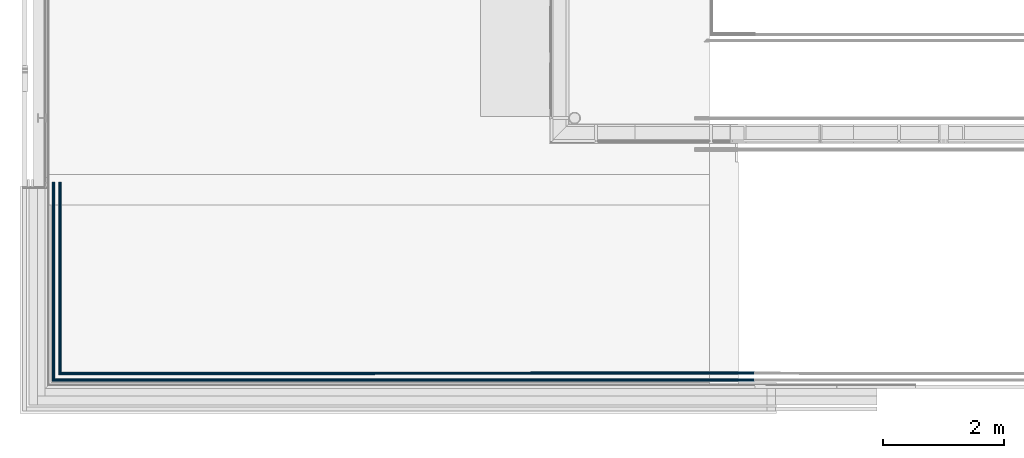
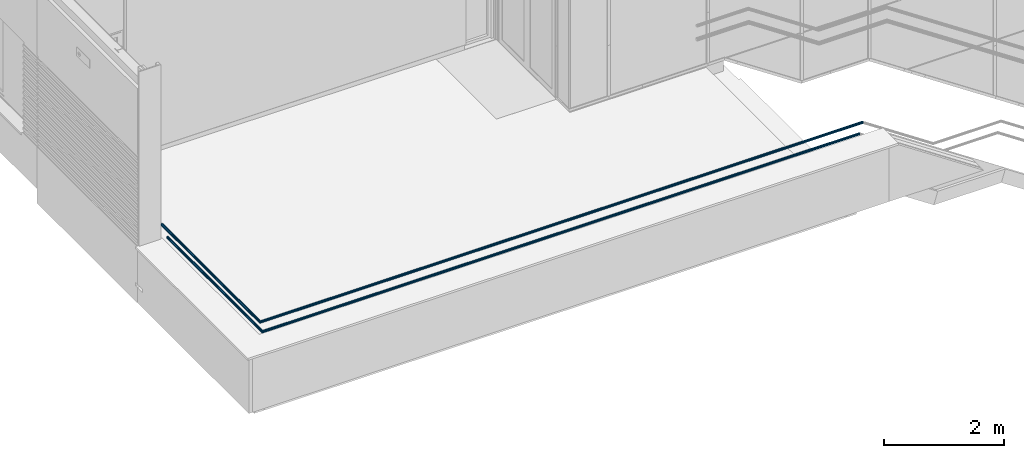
# One storey, part 12 of 137: 4 members, 1 element without a shape of its own.
"""IFC2X3 building model written with IfcOpenShell, lengths in millimetres."""

from ifc_helpers import new_model, entity, si_unit, converted_unit, derived_unit, money_unit, direction, frame, origin_with_axes, place, context, subcontext, project, spatial, faceted_brep, material, type_object, element, aggregate, save


model = new_model("IFC2X3")

# Units and contexts
model_context = context("Model", 3, precision=0.01, world=origin_with_axes(), true_north=direction((0.0, 1.0)))
body_context = subcontext(model_context, "Body", "Model", "MODEL_VIEW")
ifc_project = project(units=[si_unit("LENGTHUNIT", "METRE", prefix="MILLI"), si_unit("AREAUNIT", "SQUARE_METRE"), si_unit("VOLUMEUNIT", "CUBIC_METRE"), converted_unit("PLANEANGLEUNIT", "DEGREE", entity("IfcPlaneAngleMeasure", 0.0174532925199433), si_unit("PLANEANGLEUNIT", "RADIAN"), dimensions=[0, 0, 0, 0, 0, 0, 0]), money_unit("EUR"), converted_unit("TIMEUNIT", "Year", entity("IfcTimeMeasure", 31556926.0), si_unit("TIMEUNIT", "SECOND"), dimensions=[0, 0, 1, 0, 0, 0, 0]), si_unit("MASSUNIT", "GRAM", prefix="KILO"), si_unit("THERMODYNAMICTEMPERATUREUNIT", "DEGREE_CELSIUS"), si_unit("LUMINOUSINTENSITYUNIT", "LUMEN"), si_unit("ENERGYUNIT", "JOULE", prefix="MEGA"), derived_unit("THERMALCONDUCTANCEUNIT", [(si_unit("POWERUNIT", "WATT"), 1), (si_unit("LENGTHUNIT", "METRE"), -1), (si_unit("THERMODYNAMICTEMPERATUREUNIT", "KELVIN"), -1)]), derived_unit("SPECIFICHEATCAPACITYUNIT", [(si_unit("ENERGYUNIT", "JOULE"), 1), (si_unit("MASSUNIT", "GRAM", prefix="KILO"), -1), (si_unit("THERMODYNAMICTEMPERATUREUNIT", "KELVIN"), -1)]), derived_unit("MASSDENSITYUNIT", [(si_unit("MASSUNIT", "GRAM", prefix="KILO"), 1), (si_unit("VOLUMEUNIT", "CUBIC_METRE"), -1)])], contexts=[model_context])

# Site, building, storey
site_placement = place(None, origin_with_axes())
site = spatial("IfcSite", under=ifc_project, at=site_placement, Name="Site", CompositionType="ELEMENT")
building_placement = place(site_placement, origin_with_axes())
building = spatial("IfcBuilding", under=site, at=building_placement, Name="Naam gebouw", CompositionType="ELEMENT")
storey_placement = place(building_placement, frame((0.0, 0.0, 3960.0), z_axis=(0.0, 0.0, 1.0), x_axis=(1.0, 0.0, 0.0)))
storey = spatial("IfcBuildingStorey", under=building, at=storey_placement, Name="1e verdieping", CompositionType="ELEMENT", Elevation=3960.0)

# Railing, members
railing_type = type_object("IfcRailingType", Name="Railing Type", PredefinedType="NOTDEFINED")
railing_placement = place(storey_placement, frame((12900.00010768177, 231.9997137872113, -3791.995884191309), z_axis=(0.0, 0.0, 1.0), x_axis=(1.0, 0.0, 0.0)))
railing = element("IfcRailing", 1, at=railing_placement, inside=storey, type_object=railing_type, Name="34_Reling-x", PredefinedType="NOTDEFINED")
ifc_material = material(Name="Metaal - RVS")
member_type = type_object("IfcMemberType", Name="IfcMember", PredefinedType="USERDEFINED")
member_1_placement = place(railing_placement, frame((-12528.00009088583, 1716.531203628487, 4437.961066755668), z_axis=(0.0, 0.0, 1.0), x_axis=(1.0, 0.0, 0.0)))
member_1 = element("IfcMember", 2, at=member_1_placement, type_object=member_type, material=ifc_material, Name="h3 Staal legeringen_Handregel-x", context=body_context, shape_type="Brep", body=[
    faceted_brep([(24.15000000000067, 1576.468814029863, 29.85104165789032), (23.78310723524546, 1576.468857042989, 34.04464514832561), (23.78318052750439, -1552.675519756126, 34.07698433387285), (23.78310723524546, 1576.468771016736, 25.65743816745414), (22.69357679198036, 1576.468729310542, 21.59125519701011), (20.91451350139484, 1576.468690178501, 17.77604165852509), (18.49997330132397, 1576.468654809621, 14.32772088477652), (15.52332077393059, 1576.468624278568, 11.35106835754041), (12.07500000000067, 1576.468599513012, 8.936528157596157), (8.259786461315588, 1576.468581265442, 7.157464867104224), (4.193603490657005, 1576.4685700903, 6.067934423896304), (0.0, 1576.468566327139, 5.701041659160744), (-4.193603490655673, 1576.4685700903, 6.067934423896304), (-8.2597864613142, 1576.468581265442, 7.157464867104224), (-12.07499999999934, 1576.468599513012, 8.936528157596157), (-15.52332077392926, 1576.468624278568, 11.35106835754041), (-18.49997330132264, 1576.468654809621, 14.32772088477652), (-20.91451350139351, 1576.468690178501, 17.77604165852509), (-22.69357679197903, 1576.468729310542, 21.59125519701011), (-23.78310723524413, 1576.468771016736, 25.65743816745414), (-24.14999999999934, 1576.468814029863, 29.85104165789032), (-23.78310723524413, 1576.468857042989, 34.04464514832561), (-22.69357679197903, 1576.468898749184, 38.11082811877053), (-20.91451350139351, 1576.468937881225, 41.92604165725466), (-18.49997330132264, 1576.468973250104, 45.37436243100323), (-15.52332077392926, 1576.469003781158, 48.35101495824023), (-12.07499999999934, 1576.469028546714, 50.76555515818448), (-8.2597864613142, 1576.469046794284, 52.54461844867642), (-4.193603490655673, 1576.469057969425, 53.63414889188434), (0.0, 1576.469061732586, 54.0010416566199), (4.193603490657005, 1576.469057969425, 53.63414889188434), (8.259786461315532, 1576.469046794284, 52.54461844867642), (12.07500000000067, 1576.469028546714, 50.76555515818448), (15.52332077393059, 1576.469003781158, 48.35101495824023), (18.49997330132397, 1576.468973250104, 45.37436243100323), (20.91451350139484, 1576.468937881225, 41.92604165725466), (22.69357679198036, 1576.468898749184, 38.11082811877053), (22.69363515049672, -1553.765516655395, 38.14316730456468), (24.15008869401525, -1552.308480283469, 29.88338084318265), (23.78321133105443, -1552.675550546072, 25.68977735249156), (22.69369582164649, -1553.76557729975, 21.62359438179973), (20.91464654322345, -1555.545440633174, 17.80838084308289), (18.50011900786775, -1557.961060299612, 14.36006006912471), (15.52347741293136, -1560.939038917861, 11.38340754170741), (12.07516550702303, -1564.388892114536, 8.968867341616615), (8.25995850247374, -1568.205797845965, 7.189804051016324), (4.193779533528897, -1572.273781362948, 6.100273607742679), (0.0001773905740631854, -1576.46923904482, 5.733380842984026), (-4.193427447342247, -1580.66469403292, 6.100273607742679), (-8.259614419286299, -1584.732669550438, 7.189804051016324), (-12.07483449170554, -1588.549562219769, 8.968867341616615), (-15.52316413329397, -1591.999397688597, 11.38340754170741), (-18.49982759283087, -1594.977354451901, 14.36006006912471), (-20.91438045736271, -1597.392948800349, 17.80838084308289), (-22.69345775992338, -1599.172784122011, 21.62359438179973), (-23.78300313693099, -1600.262781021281, 25.68977735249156), (-24.14991130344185, -1600.629820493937, 29.88338084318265), (-23.78303394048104, -1600.262750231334, 34.07698433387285), (-22.69351843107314, -1599.172723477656, 38.14316730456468), (-20.91446915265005, -1597.392860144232, 41.95838084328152), (-18.4999416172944, -1594.977240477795, 45.4067016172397), (-15.52330002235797, -1591.999261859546, 48.383354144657), (-12.07498811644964, -1588.549408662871, 50.7978943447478), (-8.259781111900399, -1584.73250293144, 52.57695763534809), (-4.193602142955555, -1580.664519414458, 53.66648807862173), (0.0, -1576.469061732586, 54.03338084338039), (4.193604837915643, -1572.273606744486, 53.66648807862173), (8.259791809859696, -1568.205631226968, 52.57695763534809), (12.07501188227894, -1564.388738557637, 50.7978943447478), (15.52334152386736, -1560.938903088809, 48.383354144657), (18.50000498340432, -1557.960946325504, 45.4067016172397), (20.91455784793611, -1555.545351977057, 41.95838084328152)], [[[0, 1, 2]], [[0, 3, 4, 5, 6, 7, 8, 9, 10, 11, 12, 13, 14, 15, 16, 17, 18, 19, 20, 21, 22, 23, 24, 25, 26, 27, 28, 29, 30, 31, 32, 33, 34, 35, 36, 1]], [[1, 37, 2]], [[0, 2, 38]], [[3, 0, 38]], [[4, 3, 39]], [[5, 4, 40]], [[6, 5, 41]], [[7, 6, 42]], [[8, 7, 43]], [[9, 8, 44]], [[10, 9, 45]], [[11, 10, 46]], [[12, 11, 47]], [[13, 12, 48]], [[14, 13, 49]], [[15, 14, 50]], [[16, 15, 51]], [[17, 16, 52]], [[18, 17, 53]], [[19, 18, 54]], [[20, 19, 55]], [[21, 20, 56]], [[22, 21, 57]], [[23, 22, 58]], [[24, 23, 59]], [[25, 24, 60]], [[26, 25, 61]], [[27, 26, 62]], [[28, 27, 63]], [[29, 28, 64]], [[30, 29, 65]], [[31, 30, 66]], [[32, 31, 67]], [[33, 32, 68]], [[34, 33, 69]], [[35, 34, 70]], [[36, 35, 71]], [[1, 36, 37]], [[38, 2, 37, 71, 70, 69, 68, 67, 66, 65, 64, 63, 62, 61, 60, 59, 58, 57, 56, 55, 54, 53, 52, 51, 50, 49, 48, 47, 46, 45, 44, 43, 42, 41, 40, 39]], [[3, 38, 39]], [[4, 39, 40]], [[5, 40, 41]], [[6, 41, 42]], [[7, 42, 43]], [[8, 43, 44]], [[9, 44, 45]], [[10, 45, 46]], [[11, 46, 47]], [[12, 47, 48]], [[13, 48, 49]], [[14, 49, 50]], [[15, 50, 51]], [[16, 51, 52]], [[17, 52, 53]], [[18, 53, 54]], [[19, 54, 55]], [[20, 55, 56]], [[21, 56, 57]], [[22, 57, 58]], [[23, 58, 59]], [[24, 59, 60]], [[25, 60, 61]], [[26, 61, 62]], [[27, 62, 63]], [[28, 63, 64]], [[29, 64, 65]], [[30, 65, 66]], [[31, 66, 67]], [[32, 67, 68]], [[33, 68, 69]], [[34, 69, 70]], [[35, 70, 71]], [[36, 71, 37]]]),
])
member_2_placement = place(railing_placement, frame((-6803.882938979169, 142.5906489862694, 4437.961065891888), z_axis=(0.0, 0.0, 1.0), x_axis=(1.0, 0.0, 0.0)))
member_2 = element("IfcMember", 3, at=member_2_placement, type_object=member_type, material=ifc_material, Name="h3 Staal legeringen_Handregel-x", context=body_context, shape_type="Brep", body=[
    faceted_brep([(-5699.967063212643, 21.63207435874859, 29.88441005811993), (-5700.333971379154, 21.26503488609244, 34.07801354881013), (5718.11006938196, 26.32058093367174, 34.04466614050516), (-5700.333940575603, 21.26500409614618, 25.69080656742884), (-5701.423456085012, 20.17497734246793, 21.624623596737), (-5703.202505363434, 18.39511400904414, 17.80941005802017), (-5705.61703289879, 15.97949434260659, 14.36108928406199), (-5708.593674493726, 13.00151572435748, 11.38443675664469), (-5712.041986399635, 9.55166252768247, 8.969896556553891), (-5715.857193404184, 5.73475679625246, 7.1908332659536), (-5719.923372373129, 1.666773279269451, 6.101302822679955), (-5724.116974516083, -2.528684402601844, 5.734410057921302), (-5728.310579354, -6.724139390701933, 6.101302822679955), (-5732.376766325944, -10.79211490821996, 7.1908332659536), (-5736.191986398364, -14.60900757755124, 8.969896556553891), (-5739.640316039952, -18.05884304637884, 11.38443675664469), (-5742.616979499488, -21.03679980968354, 14.36108928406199), (-5745.031532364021, -23.45239415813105, 17.80941005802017), (-5746.810609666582, -25.23222947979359, 21.624623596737), (-5747.900155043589, -26.32222637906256, 25.69080656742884), (-5748.2670632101, -26.68926585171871, 29.88441005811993), (-5747.900185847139, -26.32219558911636, 34.07801354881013), (-5746.810670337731, -25.23216883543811, 38.14419651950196), (-5745.031621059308, -23.45230550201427, 41.95941005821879), (-5742.617093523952, -21.03668583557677, 45.40773083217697), (-5739.640451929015, -18.05870721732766, 48.38438335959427), (-5736.192140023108, -14.6088540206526, 50.79892355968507), (-5732.376933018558, -10.79194828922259, 52.57798685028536), (-5728.310754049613, -6.723964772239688, 53.66751729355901), (-5724.117151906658, -2.528507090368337, 54.03441005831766), (-5719.923547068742, 1.666947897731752, 53.66751729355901), (-5715.857360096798, 5.734923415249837, 52.57798685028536), (-5712.042140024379, 9.551816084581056, 50.79892355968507), (-5708.59381038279, 13.00165155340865, 48.38438335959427), (-5705.617146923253, 15.9796083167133, 45.40773083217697), (-5703.202594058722, 18.39520266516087, 41.95941005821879), (-5701.423516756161, 20.17503798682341, 38.14419651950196), (5719.339595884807, 25.22922633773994, 38.11084483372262), (5716.840892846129, 26.68935444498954, 29.85106706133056), (5715.57062956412, 26.32434187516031, 25.65746798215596), (5714.337875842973, 25.23663394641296, 21.59128928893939), (5713.1800882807, 23.45928011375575, 17.77607976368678), (5712.132445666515, 21.04628437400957, 14.32776261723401), (5711.226780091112, 18.07096438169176, 11.35111322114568), (5710.490609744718, 14.62372372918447, 8.936575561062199), (5709.946302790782, 10.80930507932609, 7.157514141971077), (5709.610397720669, 6.743607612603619, 6.067984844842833), (5709.493100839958, 2.550165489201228, 5.701092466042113), (5709.597976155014, -1.643605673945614, 6.067984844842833), (5709.921837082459, -5.710280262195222, 7.157514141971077), (5710.454843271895, -9.526294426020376, 8.936575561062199), (5711.180799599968, -12.97570050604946, 11.35111322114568), (5712.077648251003, -15.95369004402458, 14.32776261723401), (5713.118138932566, -18.36977833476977, 17.77607976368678), (5714.270656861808, -20.15055375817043, 21.59128928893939), (5715.500183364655, -21.24190835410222, 25.65746798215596), (5716.769359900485, -21.61068186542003, 29.85106706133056), (5718.039623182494, -21.2456692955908, 34.04466614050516), (5719.272376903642, -20.15796136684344, 38.11084483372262), (5720.430164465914, -18.38060753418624, 41.92605435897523), (5721.477807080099, -15.96761179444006, 45.37437150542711), (5722.383472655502, -12.9922918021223, 48.35102090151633), (5723.119643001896, -9.545051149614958, 50.76555856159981), (5723.663949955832, -5.730632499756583, 52.54461998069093), (5723.999855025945, -1.66493503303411, 53.63414927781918), (5724.117151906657, 2.528507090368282, 54.0010416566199), (5724.0122765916, 6.722278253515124, 53.63414927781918), (5723.688415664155, 10.78895284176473, 52.54461998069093), (5723.15540947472, 14.60496700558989, 50.76555856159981), (5722.429453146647, 18.05437308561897, 48.35102090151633), (5721.532604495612, 21.03236262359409, 45.37437150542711), (5720.492113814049, 23.44845091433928, 41.92605435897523)], [[[0, 1, 2]], [[0, 3, 4, 5, 6, 7, 8, 9, 10, 11, 12, 13, 14, 15, 16, 17, 18, 19, 20, 21, 22, 23, 24, 25, 26, 27, 28, 29, 30, 31, 32, 33, 34, 35, 36, 1]], [[1, 37, 2]], [[0, 2, 38]], [[3, 0, 38]], [[4, 3, 39]], [[5, 4, 40]], [[6, 5, 41]], [[7, 6, 42]], [[8, 7, 43]], [[9, 8, 44]], [[10, 9, 45]], [[11, 10, 46]], [[12, 11, 47]], [[13, 12, 48]], [[14, 13, 49]], [[15, 14, 50]], [[16, 15, 51]], [[17, 16, 52]], [[18, 17, 53]], [[19, 18, 54]], [[20, 19, 55]], [[21, 20, 56]], [[22, 21, 57]], [[23, 22, 58]], [[24, 23, 59]], [[25, 24, 60]], [[26, 25, 61]], [[27, 26, 62]], [[28, 27, 63]], [[29, 28, 64]], [[30, 29, 65]], [[31, 30, 66]], [[32, 31, 67]], [[33, 32, 68]], [[34, 33, 69]], [[35, 34, 70]], [[36, 35, 71]], [[1, 36, 37]], [[38, 2, 37, 71, 70, 69, 68, 67, 66, 65, 64, 63, 62, 61, 60, 59, 58, 57, 56, 55, 54, 53, 52, 51, 50, 49, 48, 47, 46, 45, 44, 43, 42, 41, 40, 39]], [[3, 38, 39]], [[4, 39, 40]], [[5, 40, 41]], [[6, 41, 42]], [[7, 42, 43]], [[8, 43, 44]], [[9, 44, 45]], [[10, 45, 46]], [[11, 46, 47]], [[12, 47, 48]], [[13, 48, 49]], [[14, 49, 50]], [[15, 50, 51]], [[16, 51, 52]], [[17, 52, 53]], [[18, 53, 54]], [[19, 54, 55]], [[20, 55, 56]], [[21, 56, 57]], [[22, 57, 58]], [[23, 58, 59]], [[24, 59, 60]], [[25, 60, 61]], [[26, 61, 62]], [[27, 62, 63]], [[28, 63, 64]], [[29, 64, 65]], [[30, 65, 66]], [[31, 66, 67]], [[32, 67, 68]], [[33, 68, 69]], [[34, 69, 70]], [[35, 70, 71]], [[36, 71, 37]]]),
])
member_3_placement = place(railing_placement, frame((-12638.00009088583, 1661.50690318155, 4737.961066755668), z_axis=(0.0, 0.0, 1.0), x_axis=(1.0, 0.0, 0.0)))
member_3 = element("IfcMember", 4, at=member_3_placement, type_object=member_type, material=ifc_material, Name="h3 Staal legeringen_", context=body_context, shape_type="Brep", body=[
    faceted_brep([(24.15000000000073, 1631.4931144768, 29.85104165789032), (23.78310723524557, 1631.493157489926, 34.04464514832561), (23.78318052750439, -1607.699820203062, 34.07811308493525), (23.78310723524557, 1631.493071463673, 25.65743816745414), (22.69357679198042, 1631.493029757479, 21.59125519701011), (20.91451350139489, 1631.492990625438, 17.77604165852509), (18.49997330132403, 1631.492955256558, 14.32772088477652), (15.52332077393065, 1631.492924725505, 11.35106835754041), (12.07500000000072, 1631.492899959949, 8.936528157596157), (8.259786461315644, 1631.492881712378, 7.157464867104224), (4.193603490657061, 1631.492870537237, 6.067934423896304), (0.0, 1631.492866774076, 5.701041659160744), (-4.193603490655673, 1631.492870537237, 6.067934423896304), (-8.2597864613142, 1631.492881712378, 7.157464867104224), (-12.07499999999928, 1631.492899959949, 8.936528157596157), (-15.52332077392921, 1631.492924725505, 11.35106835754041), (-18.49997330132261, 1631.492955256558, 14.32772088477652), (-20.91451350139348, 1631.492990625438, 17.77604165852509), (-22.69357679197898, 1631.493029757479, 21.59125519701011), (-23.7831072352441, 1631.493071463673, 25.65743816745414), (-24.14999999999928, 1631.4931144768, 29.85104165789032), (-23.7831072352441, 1631.493157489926, 34.04464514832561), (-22.69357679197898, 1631.493199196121, 38.11082811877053), (-20.91451350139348, 1631.493238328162, 41.92604165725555), (-18.49997330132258, 1631.493273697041, 45.37436243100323), (-15.52332077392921, 1631.493304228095, 48.35101495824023), (-12.07499999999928, 1631.493328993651, 50.76555515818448), (-8.2597864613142, 1631.493347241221, 52.54461844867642), (-4.193603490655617, 1631.493358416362, 53.63414889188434), (0.0, 1631.493362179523, 54.0010416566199), (4.193603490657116, 1631.493358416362, 53.63414889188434), (8.259786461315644, 1631.493347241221, 52.54461844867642), (12.07500000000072, 1631.493328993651, 50.76555515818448), (15.52332077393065, 1631.493304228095, 48.35101495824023), (18.49997330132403, 1631.493273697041, 45.37436243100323), (20.91451350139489, 1631.493238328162, 41.92604165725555), (22.69357679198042, 1631.493199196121, 38.11082811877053), (22.69363515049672, -1608.789817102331, 38.14429605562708), (24.15008869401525, -1607.332780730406, 29.88450959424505), (23.78321133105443, -1607.699850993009, 25.69090610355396), (22.69369582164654, -1608.789877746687, 21.62472313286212), (20.91464654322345, -1610.569741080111, 17.80950959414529), (18.5001190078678, -1612.985360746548, 14.36118882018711), (15.52347741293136, -1615.963339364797, 11.38453629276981), (12.07516550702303, -1619.413192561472, 8.969996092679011), (8.259958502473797, -1623.230098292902, 7.19093280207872), (4.193779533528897, -1627.298081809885, 6.101402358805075), (0.0001773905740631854, -1631.493539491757, 5.734509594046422), (-4.193427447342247, -1635.688994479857, 6.101402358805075), (-8.259614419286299, -1639.756969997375, 7.19093280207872), (-12.07483449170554, -1643.573862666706, 8.969996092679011), (-15.52316413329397, -1647.023698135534, 11.38453629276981), (-18.49982759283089, -1650.001654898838, 14.36118882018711), (-20.91438045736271, -1652.417249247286, 17.80950959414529), (-22.69345775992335, -1654.197084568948, 21.62472313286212), (-23.78300313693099, -1655.287081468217, 25.69090610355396), (-24.14991130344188, -1655.654120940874, 29.88450959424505), (-23.78303394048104, -1655.287050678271, 34.07811308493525), (-22.69351843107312, -1654.197023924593, 38.14429605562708), (-20.91446915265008, -1652.417160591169, 41.95950959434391), (-18.4999416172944, -1650.001540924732, 45.40783036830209), (-15.52330002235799, -1647.023562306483, 48.38448289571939), (-12.07498811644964, -1643.573709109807, 50.79902309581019), (-8.259781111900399, -1639.756803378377, 52.57808638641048), (-4.193602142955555, -1635.688819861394, 53.66761682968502), (0.0, -1631.493362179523, 54.03450959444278), (4.193604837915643, -1627.297907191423, 53.66761682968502), (8.259791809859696, -1623.229931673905, 52.57808638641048), (12.07501188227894, -1619.413039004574, 50.79902309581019), (15.52334152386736, -1615.963203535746, 48.38448289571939), (18.50000498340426, -1612.985246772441, 45.40783036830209), (20.91455784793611, -1610.569652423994, 41.95950959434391)], [[[0, 1, 2]], [[0, 3, 4, 5, 6, 7, 8, 9, 10, 11, 12, 13, 14, 15, 16, 17, 18, 19, 20, 21, 22, 23, 24, 25, 26, 27, 28, 29, 30, 31, 32, 33, 34, 35, 36, 1]], [[1, 37, 2]], [[0, 2, 38]], [[3, 0, 38]], [[4, 3, 39]], [[5, 4, 40]], [[6, 5, 41]], [[7, 6, 42]], [[8, 7, 43]], [[9, 8, 44]], [[10, 9, 45]], [[11, 10, 46]], [[12, 11, 47]], [[13, 12, 48]], [[14, 13, 49]], [[15, 14, 50]], [[16, 15, 51]], [[17, 16, 52]], [[18, 17, 53]], [[19, 18, 54]], [[20, 19, 55]], [[21, 20, 56]], [[22, 21, 57]], [[23, 22, 58]], [[24, 23, 59]], [[25, 24, 60]], [[26, 25, 61]], [[27, 26, 62]], [[28, 27, 63]], [[29, 28, 64]], [[30, 29, 65]], [[31, 30, 66]], [[32, 31, 67]], [[33, 32, 68]], [[34, 33, 69]], [[35, 34, 70]], [[36, 35, 71]], [[1, 36, 37]], [[38, 2, 37, 71, 70, 69, 68, 67, 66, 65, 64, 63, 62, 61, 60, 59, 58, 57, 56, 55, 54, 53, 52, 51, 50, 49, 48, 47, 46, 45, 44, 43, 42, 41, 40, 39]], [[3, 38, 39]], [[4, 39, 40]], [[5, 40, 41]], [[6, 41, 42]], [[7, 42, 43]], [[8, 43, 44]], [[9, 44, 45]], [[10, 45, 46]], [[11, 46, 47]], [[12, 47, 48]], [[13, 48, 49]], [[14, 49, 50]], [[15, 50, 51]], [[16, 51, 52]], [[17, 52, 53]], [[18, 53, 54]], [[19, 54, 55]], [[20, 55, 56]], [[21, 56, 57]], [[22, 57, 58]], [[23, 58, 59]], [[24, 59, 60]], [[25, 60, 61]], [[26, 61, 62]], [[27, 62, 63]], [[28, 63, 64]], [[29, 64, 65]], [[30, 65, 66]], [[31, 66, 67]], [[32, 67, 68]], [[33, 68, 69]], [[34, 69, 70]], [[35, 70, 71]], [[36, 71, 37]]]),
])
member_4_placement = place(railing_placement, frame((-6858.975067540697, 32.56630247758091, 4737.961066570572), z_axis=(0.0, 0.0, 1.0), x_axis=(1.0, 0.0, 0.0)))
member_4 = element("IfcMember", 5, at=member_4_placement, type_object=member_type, material=ifc_material, Name="h3 Staal legeringen_", context=body_context, shape_type="Brep", body=[
    faceted_brep([(-5754.874934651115, 21.60781997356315, 29.88473014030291), (-5755.241842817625, 21.24078050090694, 34.07833363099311), (5773.017940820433, 26.34483531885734, 34.04466614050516), (-5755.241812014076, 21.24074971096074, 25.69112664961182), (-5756.331327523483, 20.15072295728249, 21.62494367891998), (-5758.110376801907, 18.3708596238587, 17.80973014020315), (-5760.524904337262, 15.95523995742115, 14.36140936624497), (-5763.501545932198, 12.97726133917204, 11.38475683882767), (-5766.949857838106, 9.527408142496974, 8.970216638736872), (-5770.765064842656, 5.71050241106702, 7.191153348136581), (-5774.831243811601, 1.642518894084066, 6.101622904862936), (-5779.024845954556, -2.552938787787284, 5.734730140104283), (-5783.218450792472, -6.748393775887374, 6.101622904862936), (-5787.284637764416, -10.81636929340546, 7.191153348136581), (-5791.099857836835, -14.63326196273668, 8.970216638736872), (-5794.548187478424, -18.08309743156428, 11.38475683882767), (-5797.524850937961, -21.06105419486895, 14.36140936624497), (-5799.939403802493, -23.47664854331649, 17.80973014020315), (-5801.718481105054, -25.25648386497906, 21.62494367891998), (-5802.808026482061, -26.34648076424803, 25.69112664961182), (-5803.174934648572, -26.71352023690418, 29.88473014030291), (-5802.808057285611, -26.3464499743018, 34.07833363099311), (-5801.718541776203, -25.25642322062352, 38.14451660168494), (-5799.93949249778, -23.47655988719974, 41.95973014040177), (-5797.524964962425, -21.06094022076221, 45.40805091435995), (-5794.548323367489, -18.0829616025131, 48.38470344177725), (-5791.100011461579, -14.63310840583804, 50.79924364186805), (-5787.28480445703, -10.81620267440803, 52.57830693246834), (-5783.218625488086, -6.748219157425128, 53.66783737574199), (-5779.025023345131, -2.552761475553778, 54.03473014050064), (-5774.831418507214, 1.642693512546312, 53.66783737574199), (-5770.76523153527, 5.710669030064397, 52.57830693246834), (-5766.950011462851, 9.527561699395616, 50.79924364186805), (-5763.501681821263, 12.97739716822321, 48.38470344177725), (-5760.525018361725, 15.95535393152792, 45.40805091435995), (-5758.110465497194, 18.37094827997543, 41.95973014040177), (-5756.331388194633, 20.15078360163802, 38.14451660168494), (5774.24746732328, 25.25348072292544, 38.11084483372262), (5771.748764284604, 26.71360883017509, 29.85106706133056), (5770.478501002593, 26.34859626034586, 25.65746798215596), (5769.245747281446, 25.26088833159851, 21.59128928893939), (5768.087959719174, 23.48353449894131, 17.77607976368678), (5767.040317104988, 21.07053875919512, 14.32776261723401), (5766.134651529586, 18.09521876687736, 11.35111322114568), (5765.398481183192, 14.64797811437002, 8.936575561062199), (5764.854174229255, 10.83355946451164, 7.157514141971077), (5764.518269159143, 6.76786199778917, 6.067984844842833), (5764.400972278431, 2.57441987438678, 5.701092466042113), (5764.505847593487, -1.619351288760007, 6.067984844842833), (5764.829708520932, -5.686025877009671, 7.157514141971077), (5765.362714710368, -9.50204004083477, 8.936575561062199), (5766.088671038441, -12.95144612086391, 11.35111322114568), (5766.985519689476, -15.92943565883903, 14.32776261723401), (5768.026010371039, -18.34552394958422, 17.77607976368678), (5769.178528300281, -20.12629937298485, 21.59128928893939), (5770.408054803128, -21.2176539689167, 25.65746798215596), (5771.677231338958, -21.58642748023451, 29.85106706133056), (5772.947494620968, -21.22141491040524, 34.04466614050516), (5774.180248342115, -20.13370698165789, 38.11084483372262), (5775.338035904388, -18.35635314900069, 41.92605435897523), (5776.385678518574, -15.94335740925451, 45.37437150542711), (5777.291344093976, -12.96803741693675, 48.35102090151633), (5778.02751444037, -9.520796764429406, 50.76555856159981), (5778.571821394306, -5.706378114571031, 52.54461998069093), (5778.907726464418, -1.640680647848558, 53.63414927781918), (5779.02502334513, 2.552761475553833, 54.0010416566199), (5778.920148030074, 6.74653263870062, 53.63414927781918), (5778.59628710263, 10.81320722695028, 52.54461998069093), (5778.063280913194, 14.62922139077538, 50.76555856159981), (5777.33732458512, 18.07862747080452, 48.35102090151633), (5776.440475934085, 21.05661700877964, 45.37437150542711), (5775.399985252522, 23.47270529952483, 41.92605435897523)], [[[0, 1, 2]], [[0, 3, 4, 5, 6, 7, 8, 9, 10, 11, 12, 13, 14, 15, 16, 17, 18, 19, 20, 21, 22, 23, 24, 25, 26, 27, 28, 29, 30, 31, 32, 33, 34, 35, 36, 1]], [[1, 37, 2]], [[0, 2, 38]], [[3, 0, 38]], [[4, 3, 39]], [[5, 4, 40]], [[6, 5, 41]], [[7, 6, 42]], [[8, 7, 43]], [[9, 8, 44]], [[10, 9, 45]], [[11, 10, 46]], [[12, 11, 47]], [[13, 12, 48]], [[14, 13, 49]], [[15, 14, 50]], [[16, 15, 51]], [[17, 16, 52]], [[18, 17, 53]], [[19, 18, 54]], [[20, 19, 55]], [[21, 20, 56]], [[22, 21, 57]], [[23, 22, 58]], [[24, 23, 59]], [[25, 24, 60]], [[26, 25, 61]], [[27, 26, 62]], [[28, 27, 63]], [[29, 28, 64]], [[30, 29, 65]], [[31, 30, 66]], [[32, 31, 67]], [[33, 32, 68]], [[34, 33, 69]], [[35, 34, 70]], [[36, 35, 71]], [[1, 36, 37]], [[38, 2, 37, 71, 70, 69, 68, 67, 66, 65, 64, 63, 62, 61, 60, 59, 58, 57, 56, 55, 54, 53, 52, 51, 50, 49, 48, 47, 46, 45, 44, 43, 42, 41, 40, 39]], [[3, 38, 39]], [[4, 39, 40]], [[5, 40, 41]], [[6, 41, 42]], [[7, 42, 43]], [[8, 43, 44]], [[9, 44, 45]], [[10, 45, 46]], [[11, 46, 47]], [[12, 47, 48]], [[13, 48, 49]], [[14, 49, 50]], [[15, 50, 51]], [[16, 51, 52]], [[17, 52, 53]], [[18, 53, 54]], [[19, 54, 55]], [[20, 55, 56]], [[21, 56, 57]], [[22, 57, 58]], [[23, 58, 59]], [[24, 59, 60]], [[25, 60, 61]], [[26, 61, 62]], [[27, 62, 63]], [[28, 63, 64]], [[29, 64, 65]], [[30, 65, 66]], [[31, 66, 67]], [[32, 67, 68]], [[33, 68, 69]], [[34, 69, 70]], [[35, 70, 71]], [[36, 71, 37]]]),
])
aggregate(railing, [member_1, member_2, member_3, member_4])

save(model, "model.ifc")
